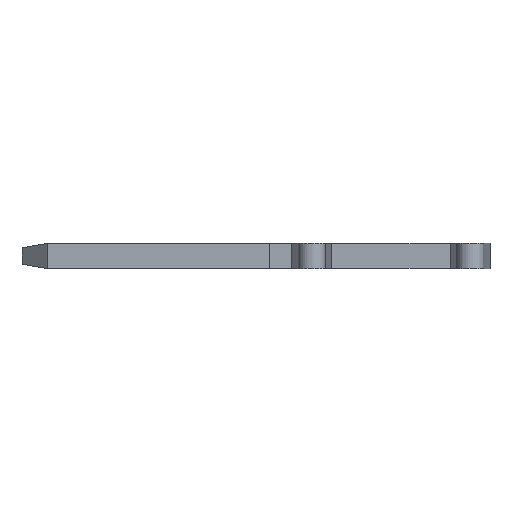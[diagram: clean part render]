
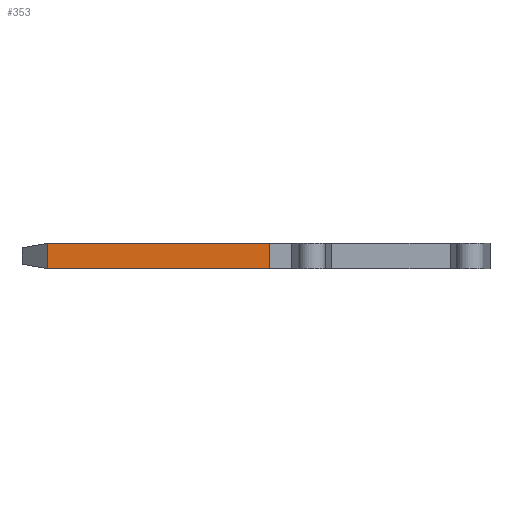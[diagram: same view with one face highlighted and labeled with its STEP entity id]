
A CAD part, front view. The second image highlights one B-rep face of the part: STEP entity #353.
In plain terms, the highlighted planar face has unit normal (0, -1, 0).
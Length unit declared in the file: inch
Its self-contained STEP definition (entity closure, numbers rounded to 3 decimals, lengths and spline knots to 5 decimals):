
#97 = VERTEX_POINT ( 'NONE', #720 ) ;
#227 = VERTEX_POINT ( 'NONE', #885 ) ;
#247 = EDGE_CURVE ( 'NONE', #248, #97, #854, .T. ) ;
#248 = VERTEX_POINT ( 'NONE', #850 ) ;
#289 = EDGE_CURVE ( 'NONE', #227, #290, #804, .T. ) ;
#290 = VERTEX_POINT ( 'NONE', #800 ) ;
#353 = ADVANCED_FACE ( 'NONE', ( #1015 ), #1014, .F. ) ;
#364 = ORIENTED_EDGE ( 'NONE', *, *, #289, .F. ) ;
#371 = ORIENTED_EDGE ( 'NONE', *, *, #247, .T. ) ;
#372 = ORIENTED_EDGE ( 'NONE', *, *, #373, .F. ) ;
#373 = EDGE_CURVE ( 'NONE', #290, #97, #1039, .T. ) ;
#434 = EDGE_LOOP ( 'NONE', ( #371, #372, #364, #491 ) ) ;
#479 = EDGE_CURVE ( 'NONE', #227, #248, #1106, .T. ) ;
#491 = ORIENTED_EDGE ( 'NONE', *, *, #479, .T. ) ;
#720 = CARTESIAN_POINT ( 'NONE',  ( 0.312, -0.125, 0. ) ) ;
#800 = CARTESIAN_POINT ( 'NONE',  ( 0.312, -0.125, 0.032 ) ) ;
#801 = DIRECTION ( 'NONE',  ( 1., 0., 0. ) ) ;
#802 = VECTOR ( 'NONE', #801, 39.37008 ) ;
#803 = CARTESIAN_POINT ( 'NONE',  ( 0.032, -0.125, 0.032 ) ) ;
#804 = LINE ( 'NONE', #803, #802 ) ;
#850 = CARTESIAN_POINT ( 'NONE',  ( 0.032, -0.125, 0. ) ) ;
#851 = DIRECTION ( 'NONE',  ( 1., 0., 0. ) ) ;
#852 = VECTOR ( 'NONE', #851, 39.37008 ) ;
#853 = CARTESIAN_POINT ( 'NONE',  ( 0.032, -0.125, 0. ) ) ;
#854 = LINE ( 'NONE', #853, #852 ) ;
#885 = CARTESIAN_POINT ( 'NONE',  ( 0.032, -0.125, 0.032 ) ) ;
#1008 = DIRECTION ( 'NONE',  ( 0., 0., 1. ) ) ;
#1009 = DIRECTION ( 'NONE',  ( 0., 1., 0. ) ) ;
#1010 = CARTESIAN_POINT ( 'NONE',  ( 0.032, -0.125, 0.032 ) ) ;
#1013 = AXIS2_PLACEMENT_3D ( 'NONE', #1010, #1009, #1008 ) ;
#1014 = PLANE ( 'NONE',  #1013 ) ;
#1015 = FACE_OUTER_BOUND ( 'NONE', #434, .T. ) ;
#1038 = CARTESIAN_POINT ( 'NONE',  ( 0.312, -0.125, 0.032 ) ) ;
#1039 = LINE ( 'NONE', #1038, #1079 ) ;
#1069 = DIRECTION ( 'NONE',  ( 0., 0., -1. ) ) ;
#1079 = VECTOR ( 'NONE', #1069, 39.37008 ) ;
#1103 = DIRECTION ( 'NONE',  ( 0., 0., -1. ) ) ;
#1104 = VECTOR ( 'NONE', #1103, 39.37008 ) ;
#1105 = CARTESIAN_POINT ( 'NONE',  ( 0.032, -0.125, 0.032 ) ) ;
#1106 = LINE ( 'NONE', #1105, #1104 ) ;
